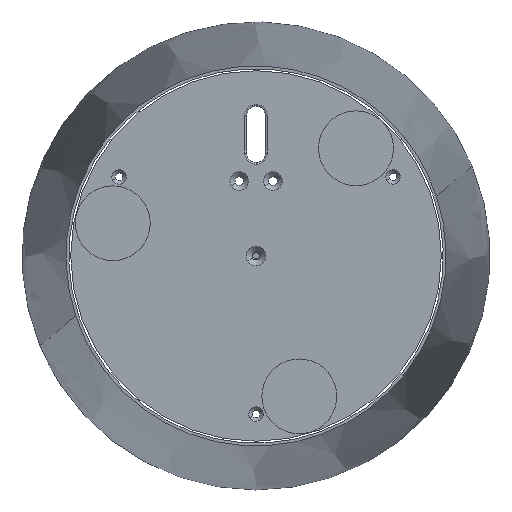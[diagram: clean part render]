
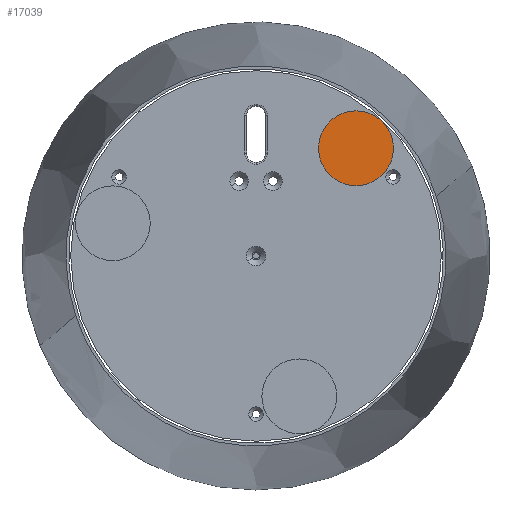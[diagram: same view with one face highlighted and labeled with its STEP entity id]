
A CAD part, front view. The second image highlights one B-rep face of the part: STEP entity #17039.
In plain terms, the highlighted planar face has unit normal (0, -1, 0).
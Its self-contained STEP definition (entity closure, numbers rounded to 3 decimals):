
#211 = CARTESIAN_POINT ( 'NONE',  ( 53.399, -5., 57.539 ) ) ;
#509 = FACE_OUTER_BOUND ( 'NONE', #8051, .T. ) ;
#696 = AXIS2_PLACEMENT_3D ( 'NONE', #2251, #16285, #14538 ) ;
#1368 = CARTESIAN_POINT ( 'NONE',  ( 70.72, -5., 67.539 ) ) ;
#2061 = CARTESIAN_POINT ( 'NONE',  ( 53.399, -5., 57.539 ) ) ;
#2251 = CARTESIAN_POINT ( 'NONE',  ( 53.399, -5., 57.539 ) ) ;
#2901 = CIRCLE ( 'NONE', #13235, 20. ) ;
#4358 = DIRECTION ( 'NONE',  ( 0., 1., 0. ) ) ;
#5602 = CIRCLE ( 'NONE', #8525, 20. ) ;
#8051 = EDGE_LOOP ( 'NONE', ( #16766, #8347 ) ) ;
#8347 = ORIENTED_EDGE ( 'NONE', *, *, #13603, .F. ) ;
#8525 = AXIS2_PLACEMENT_3D ( 'NONE', #2061, #9081, #16080 ) ;
#9081 = DIRECTION ( 'NONE',  ( 0., 1., 0. ) ) ;
#9157 = PLANE ( 'NONE',  #696 ) ;
#10225 = EDGE_CURVE ( 'NONE', #21208, #14818, #5602, .T. ) ;
#11195 = DIRECTION ( 'NONE',  ( 0.866, 0., 0.5 ) ) ;
#11696 = CARTESIAN_POINT ( 'NONE',  ( 36.079, -5., 47.539 ) ) ;
#13235 = AXIS2_PLACEMENT_3D ( 'NONE', #211, #4358, #11195 ) ;
#13603 = EDGE_CURVE ( 'NONE', #14818, #21208, #2901, .T. ) ;
#14538 = DIRECTION ( 'NONE',  ( 0.866, 0., 0.5 ) ) ;
#14818 = VERTEX_POINT ( 'NONE', #1368 ) ;
#16080 = DIRECTION ( 'NONE',  ( 0.866, 0., 0.5 ) ) ;
#16285 = DIRECTION ( 'NONE',  ( 0., 1., 0. ) ) ;
#16766 = ORIENTED_EDGE ( 'NONE', *, *, #10225, .F. ) ;
#17039 = ADVANCED_FACE ( 'NONE', ( #509 ), #9157, .F. ) ;
#21208 = VERTEX_POINT ( 'NONE', #11696 ) ;
